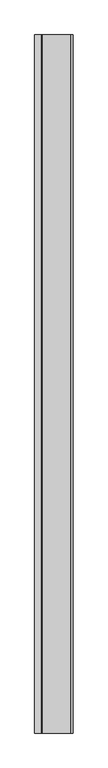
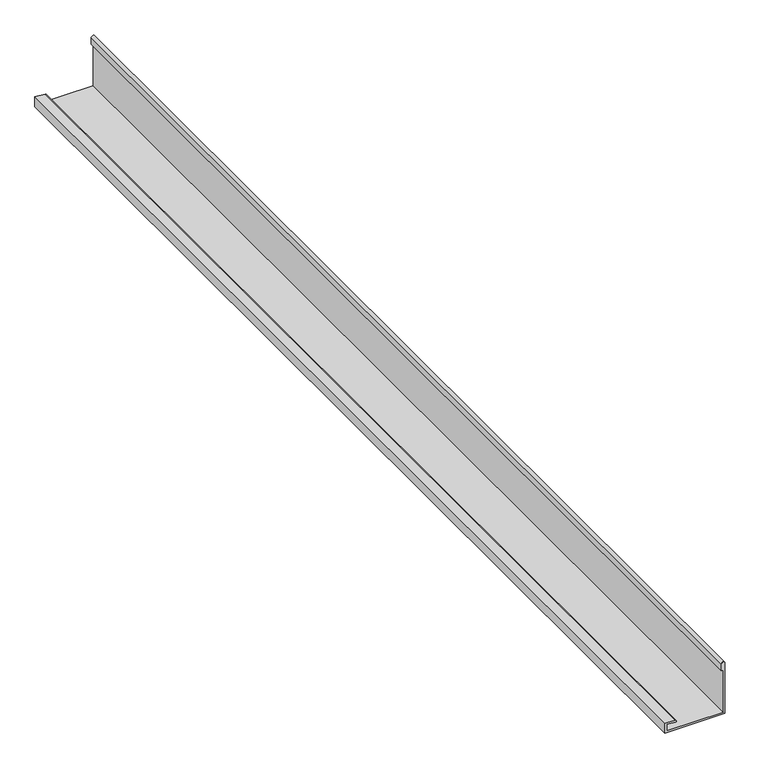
"""IFC4 building model written with IfcOpenShell, lengths in millimetres: proxy geometry, Prefinished Hidden Gutter2 : Prefinished Hidden Gutter."""

from ifc_helpers import new_model, si_unit, point, frame, frame_2d, origin, place, context, project, spatial, polyline, circle_curve, trimmed, segment, composite_curve, outline, extrude, source, transform, mapped, element, save


def generic_models_15316e2f(model_context):
    return source(origin(), model_context, "Body", "SweptSolid", [
        extrude(outline(composite_curve([segment(polyline([(3799.2452806, 39974.687938), (3799.2452806, 40144.687938), (3949.6655464, 40144.687938)]), True, "CONTINUOUS"), segment(trimmed(circle_curve(frame_2d((3949.6655464, 40139.687938)), 5.0), [point((3949.6655464, 40144.687938))], [point((3949.6655464, 40134.687938))], False, "CARTESIAN"), True, "CONTINUOUS"), segment(polyline([(3949.6655464, 40134.687938), (3929.6655464, 40134.687938), (3929.6655464, 40139.687938), (3804.2452806, 40139.687938), (3804.2452806, 39979.687938), (3823.7887381, 39979.687938), (3821.6496348, 40004.1380002)]), True, "CONTINUOUS"), segment(trimmed(circle_curve(frame_2d((3824.1401216, 40004.3558895)), 2.5), [point((3821.6496348, 40004.1380002))], [point((3826.6306083, 40004.5737789))], False, "CARTESIAN"), True, "CONTINUOUS"), segment(polyline([(3826.6306083, 40004.5737789), (3829.2452806, 39974.687938), (3799.2452806, 39974.687938)]), True, "CONTINUOUS")], self_intersect=False)), frame((0.0, -15336.9640915, 0.0), z_axis=(0.0, 1.0, 0.0), x_axis=(0.0, 0.0, 1.0)), (0.0, 0.0, 1.0), 3090.0),
    ])


if __name__ == "__main__":
    model = new_model("IFC4")
    model_context = context("Model", 3, world=origin())
    ifc_project = project(units=[si_unit("LENGTHUNIT", "METRE", prefix="MILLI")], contexts=[model_context])
    site = spatial("IfcSite", under=ifc_project)
    building = spatial("IfcBuilding", under=site)
    placement = place(None, origin())
    generic_models_shape = generic_models_15316e2f(model_context)
    element("IfcBuildingElementProxy", 1, Name="Prefinished Hidden Gutter2 : Prefinished Hidden Gutter", ObjectType="Prefinished Hidden Gutter2 : Prefinished Hidden Gutter", at=placement, inside=building, context=model_context, shape_type="MappedRepresentation", body=[
        mapped(generic_models_shape, transform((0.0, 0.0, 0.0), x_axis=(1.0, 0.0, 0.0), y_axis=(0.0, 1.0, 0.0), z_axis=(0.0, 0.0, 1.0))),
    ])
    save(model, "model.ifc")
